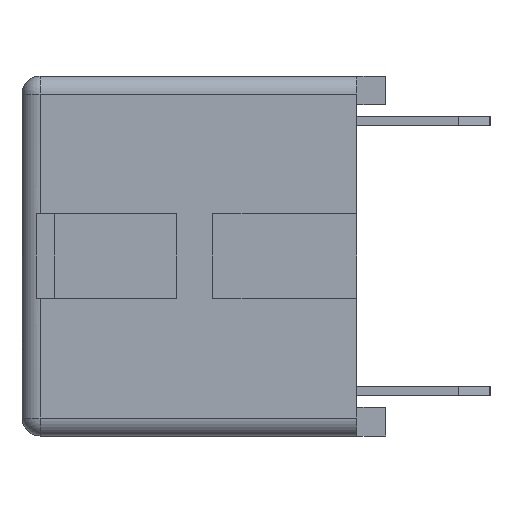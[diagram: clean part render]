
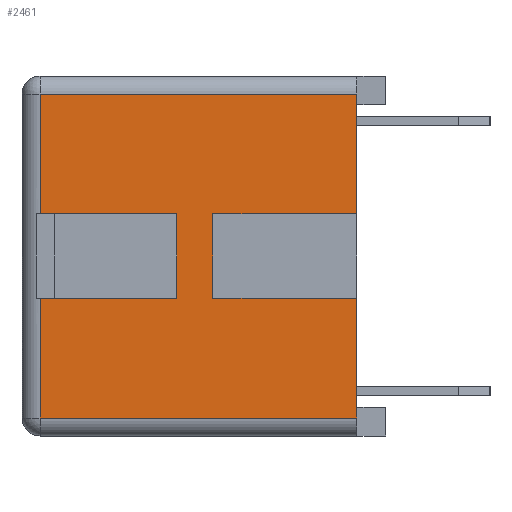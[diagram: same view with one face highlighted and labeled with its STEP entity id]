
A CAD part, left-side view. The second image highlights one B-rep face of the part: STEP entity #2461.
In plain terms, the highlighted planar face has unit normal (-1, 0, 0).
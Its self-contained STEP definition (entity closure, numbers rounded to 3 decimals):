
#219=FACE_OUTER_BOUND('',#357,.T.);
#357=EDGE_LOOP('',(#2206,#2207,#2208,#2209,#2210,#2211,#2212,#2213,#2214,
#2215,#2216,#2217));
#381=LINE('',#3277,#697);
#412=LINE('',#3347,#728);
#415=LINE('',#3352,#731);
#417=LINE('',#3358,#733);
#421=LINE('',#3367,#737);
#425=LINE('',#3374,#741);
#428=LINE('',#3380,#744);
#430=LINE('',#3387,#746);
#440=LINE('',#3411,#756);
#441=LINE('',#3413,#757);
#579=LINE('',#3714,#895);
#673=LINE('',#3909,#989);
#697=VECTOR('',#2651,10.);
#728=VECTOR('',#2714,10.);
#731=VECTOR('',#2719,10.);
#733=VECTOR('',#2725,10.);
#737=VECTOR('',#2731,10.);
#741=VECTOR('',#2737,10.);
#744=VECTOR('',#2744,10.);
#746=VECTOR('',#2750,10.);
#756=VECTOR('',#2766,10.);
#757=VECTOR('',#2767,10.);
#895=VECTOR('',#3047,10.);
#989=VECTOR('',#3223,10.);
#1008=VERTEX_POINT('',#3274);
#1009=VERTEX_POINT('',#3276);
#1031=VERTEX_POINT('',#3344);
#1032=VERTEX_POINT('',#3346);
#1034=VERTEX_POINT('',#3356);
#1035=VERTEX_POINT('',#3357);
#1038=VERTEX_POINT('',#3365);
#1039=VERTEX_POINT('',#3366);
#1042=VERTEX_POINT('',#3379);
#1045=VERTEX_POINT('',#3385);
#1056=VERTEX_POINT('',#3409);
#1057=VERTEX_POINT('',#3412);
#1233=EDGE_CURVE('',#1009,#1008,#381,.T.);
#1268=EDGE_CURVE('',#1032,#1031,#412,.T.);
#1271=EDGE_CURVE('',#1008,#1032,#415,.T.);
#1273=EDGE_CURVE('',#1034,#1035,#417,.T.);
#1277=EDGE_CURVE('',#1038,#1039,#421,.T.);
#1281=EDGE_CURVE('',#1035,#1038,#425,.T.);
#1284=EDGE_CURVE('',#1009,#1042,#428,.T.);
#1288=EDGE_CURVE('',#1045,#1031,#430,.T.);
#1300=EDGE_CURVE('',#1039,#1056,#440,.T.);
#1301=EDGE_CURVE('',#1057,#1034,#441,.T.);
#1451=EDGE_CURVE('',#1057,#1045,#579,.T.);
#1545=EDGE_CURVE('',#1056,#1042,#673,.T.);
#2206=ORIENTED_EDGE('',*,*,#1268,.T.);
#2207=ORIENTED_EDGE('',*,*,#1288,.F.);
#2208=ORIENTED_EDGE('',*,*,#1451,.F.);
#2209=ORIENTED_EDGE('',*,*,#1301,.T.);
#2210=ORIENTED_EDGE('',*,*,#1273,.T.);
#2211=ORIENTED_EDGE('',*,*,#1281,.T.);
#2212=ORIENTED_EDGE('',*,*,#1277,.T.);
#2213=ORIENTED_EDGE('',*,*,#1300,.T.);
#2214=ORIENTED_EDGE('',*,*,#1545,.T.);
#2215=ORIENTED_EDGE('',*,*,#1284,.F.);
#2216=ORIENTED_EDGE('',*,*,#1233,.T.);
#2217=ORIENTED_EDGE('',*,*,#1271,.T.);
#2333=PLANE('',#2611);
#2461=ADVANCED_FACE('',(#219),#2333,.T.);
#2611=AXIS2_PLACEMENT_3D('',#3910,#3224,#3225);
#2651=DIRECTION('',(0.,-1.,0.));
#2714=DIRECTION('',(0.,1.,0.));
#2719=DIRECTION('',(0.,0.,-1.));
#2725=DIRECTION('',(0.,1.,0.));
#2731=DIRECTION('',(0.,-1.,0.));
#2737=DIRECTION('',(0.,0.,1.));
#2744=DIRECTION('',(0.,0.,1.));
#2750=DIRECTION('',(0.,0.,1.));
#2766=DIRECTION('',(0.,0.,1.));
#2767=DIRECTION('',(0.,0.,1.));
#3047=DIRECTION('',(0.,1.,0.));
#3223=DIRECTION('',(0.,1.,0.));
#3224=DIRECTION('center_axis',(-1.,0.,0.));
#3225=DIRECTION('ref_axis',(0.,0.,1.));
#3274=CARTESIAN_POINT('',(-15.2,5.,1.175));
#3276=CARTESIAN_POINT('',(-15.2,8.8,1.175));
#3277=CARTESIAN_POINT('',(-15.2,4.45,1.175));
#3344=CARTESIAN_POINT('',(-15.2,8.8,-1.175));
#3346=CARTESIAN_POINT('',(-15.2,5.,-1.175));
#3347=CARTESIAN_POINT('',(-15.2,2.5,-1.175));
#3352=CARTESIAN_POINT('',(-15.2,5.,-1.663));
#3356=CARTESIAN_POINT('',(-15.2,0.,-1.175));
#3357=CARTESIAN_POINT('',(-15.2,4.,-1.175));
#3358=CARTESIAN_POINT('',(-15.2,0.,-1.175));
#3365=CARTESIAN_POINT('',(-15.2,4.,1.175));
#3366=CARTESIAN_POINT('',(-15.2,0.,1.175));
#3367=CARTESIAN_POINT('',(-15.2,2.,1.175));
#3374=CARTESIAN_POINT('',(-15.2,4.,-2.838));
#3379=CARTESIAN_POINT('',(-15.2,8.8,4.5));
#3380=CARTESIAN_POINT('',(-15.2,8.8,-2.25));
#3385=CARTESIAN_POINT('',(-15.2,8.8,-4.5));
#3387=CARTESIAN_POINT('',(-15.2,8.8,-2.25));
#3409=CARTESIAN_POINT('',(-15.2,0.,4.5));
#3411=CARTESIAN_POINT('',(-15.2,0.,-4.5));
#3412=CARTESIAN_POINT('',(-15.2,0.,-4.5));
#3413=CARTESIAN_POINT('',(-15.2,0.,-4.5));
#3714=CARTESIAN_POINT('',(-15.2,0.,-4.5));
#3909=CARTESIAN_POINT('',(-15.2,0.,4.5));
#3910=CARTESIAN_POINT('Origin',(-15.2,0.,-4.5));
